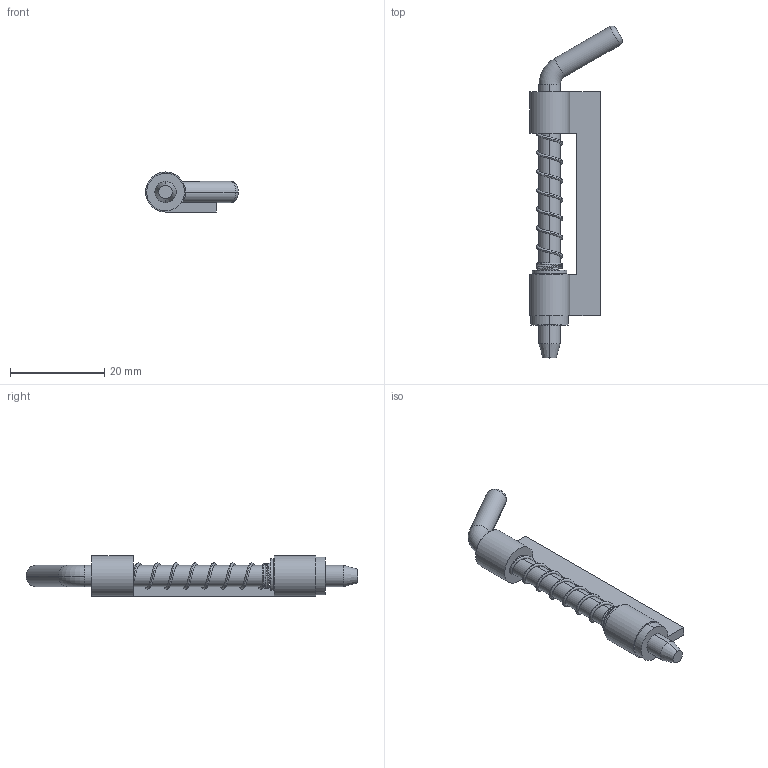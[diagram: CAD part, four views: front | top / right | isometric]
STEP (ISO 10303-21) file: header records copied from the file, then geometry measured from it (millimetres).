
FILE_DESCRIPTION (( 'STEP AP214' ), '1' );
FILE_NAME ('3.ST20.001.STEP', '2010-06-09T15:57:33', ( '£ukasz Cieæka' ), ( '' ), 'SwSTEP 2.0', 'SolidWorks 2010', '' );
FILE_SCHEMA (( 'AUTOMOTIVE_DESIGN' ));
Length unit declared in the file: millimetre
Products named in the file (6): 3B.St20.02.00.00_pret; 3B.St20.03.00.00; O-3,2pi_os; 3.ST20.001; 3.ST20.001.01; 3B.St20.04.00.00
Assembly tree (5 placements, depth 2):
  3.ST20.001
    3B.St20.02.00.00_pret
    3B.St20.04.00.00
    3.ST20.001.01
    O-3,2pi_os
    3B.St20.03.00.00
Bounding box: 19.71 x 70.5 x 8.5 mm (x, y, z)
Volume: 2600.6 mm3; surface area: 3343.8 mm2
Topology: 5 solids, 5 shells, 84 faces, 212 edges, 136 vertices
Faces by surface type: cylinder 38, plane 30, bspline 10, torus 4, cone 2
Entity records: 5924 total; most frequent: CARTESIAN_POINT 3650, DIRECTION 464, ORIENTED_EDGE 424, EDGE_CURVE 212, AXIS2_PLACEMENT_3D 190, VERTEX_POINT 136, CIRCLE 108, EDGE_LOOP 88
